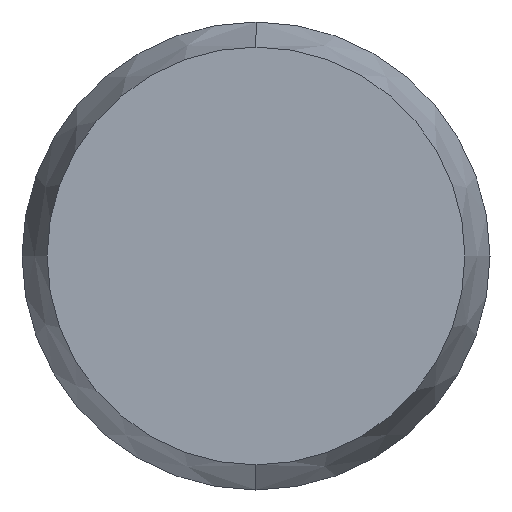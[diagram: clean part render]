
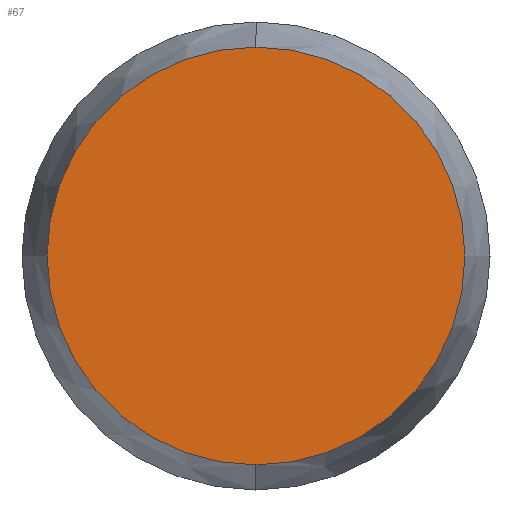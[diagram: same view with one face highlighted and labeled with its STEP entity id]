
A CAD part, left-side view. The second image highlights one B-rep face of the part: STEP entity #67.
In plain terms, the highlighted planar face has unit normal (-1, 0, 0).
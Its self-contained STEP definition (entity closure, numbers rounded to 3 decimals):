
#43 = EDGE_CURVE ( 'NONE', #274, #85, #200, .T. ) ;
#62 = EDGE_LOOP ( 'NONE', ( #267, #230 ) ) ;
#64 = AXIS2_PLACEMENT_3D ( 'NONE', #252, #87, #109 ) ;
#67 = ADVANCED_FACE ( 'NONE', ( #273 ), #210, .F. ) ;
#78 = CARTESIAN_POINT ( 'NONE',  ( 0., 0., -4.464 ) ) ;
#85 = VERTEX_POINT ( 'NONE', #78 ) ;
#87 = DIRECTION ( 'NONE',  ( 1., 0., 0. ) ) ;
#108 = CARTESIAN_POINT ( 'NONE',  ( 0., 0., 0. ) ) ;
#109 = DIRECTION ( 'NONE',  ( 0., 0., -1. ) ) ;
#133 = AXIS2_PLACEMENT_3D ( 'NONE', #108, #256, #211 ) ;
#137 = EDGE_CURVE ( 'NONE', #85, #274, #206, .T. ) ;
#144 = AXIS2_PLACEMENT_3D ( 'NONE', #174, #239, #153 ) ;
#153 = DIRECTION ( 'NONE',  ( 0., 0., 1. ) ) ;
#172 = CARTESIAN_POINT ( 'NONE',  ( 0., 0., 4.464 ) ) ;
#174 = CARTESIAN_POINT ( 'NONE',  ( 0., 0., 0. ) ) ;
#200 = CIRCLE ( 'NONE', #133, 4.464 ) ;
#206 = CIRCLE ( 'NONE', #144, 4.464 ) ;
#210 = PLANE ( 'NONE',  #64 ) ;
#211 = DIRECTION ( 'NONE',  ( 0., 0., 1. ) ) ;
#230 = ORIENTED_EDGE ( 'NONE', *, *, #43, .T. ) ;
#239 = DIRECTION ( 'NONE',  ( -1., 0., 0. ) ) ;
#252 = CARTESIAN_POINT ( 'NONE',  ( 0., 4.464, 0. ) ) ;
#256 = DIRECTION ( 'NONE',  ( -1., 0., 0. ) ) ;
#267 = ORIENTED_EDGE ( 'NONE', *, *, #137, .T. ) ;
#273 = FACE_OUTER_BOUND ( 'NONE', #62, .T. ) ;
#274 = VERTEX_POINT ( 'NONE', #172 ) ;
